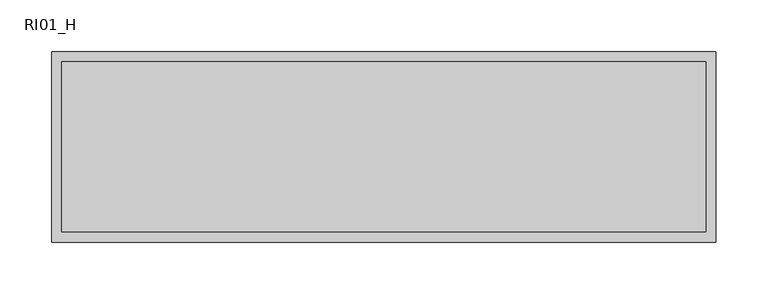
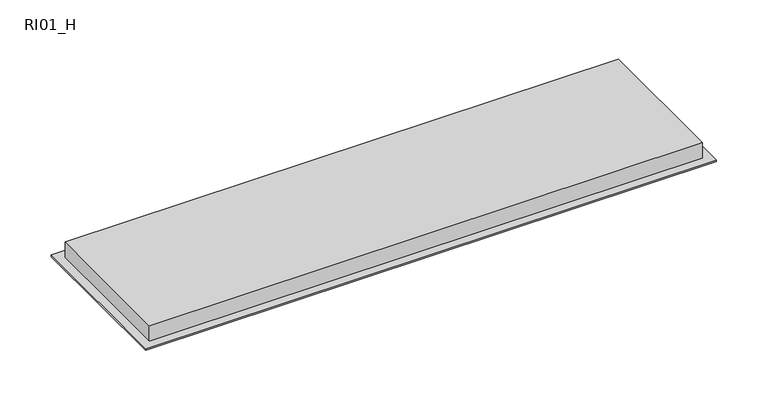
"""IFC4 building model written with IfcOpenShell, lengths in millimetres: air terminal geometry, ZYR_03.06.04.01 Reixa Sostre Sobrepressio : RI01_H."""

import ifcopenshell
import ifcopenshell.guid

model = None  # the IFC model being written
_history = None  # IfcOwnerHistory: only IFC2X3 demands one
_inside = {}  # id of a spatial element -> (the spatial element, [elements in it])
_under = {}  # id of a project, library or spatial element -> (it, [spatial elements below it])
_declared = {}  # id of a project -> (the project, [libraries it declares])
_typed = {}  # id of a type object -> (the type object, [elements of that type])
_made_of = {}  # id of a material, layer set ... -> (it, [elements and type objects made of it])


def new_model(schema):
    """Start an empty IFC model of exactly this schema.

    Asked for "IFC4X3", IfcOpenShell would pick the latest addendum, in which some entities
    have other attributes; the version numbers below select the first issue.
    IFC2X3 requires an IfcOwnerHistory on every rooted entity: one is made here for all.
    """
    global model, _history
    if schema == "IFC4X3":
        model = ifcopenshell.file(schema_version=(4, 3, 0, 0))
    else:
        model = ifcopenshell.file(schema=schema)
    _inside.clear()
    _under.clear()
    _declared.clear()
    _typed.clear()
    _made_of.clear()
    _history = None
    if model.schema == "IFC2X3":
        org = make("IfcOrganization", Name="unknown")
        user = make(
            "IfcPersonAndOrganization",
            ThePerson=make("IfcPerson", FamilyName="unknown"),
            TheOrganization=org,
        )
        app = make(
            "IfcApplication",
            ApplicationDeveloper=org,
            Version="unknown",
            ApplicationFullName="unknown",
            ApplicationIdentifier="unknown",
        )
        _history = make(
            "IfcOwnerHistory",
            OwningUser=user,
            OwningApplication=app,
            ChangeAction="ADDED",
            CreationDate=0,
        )
    return model


def make(cls, **values):
    """One entity of the class cls with the attributes given. An attribute that is None is left unset."""
    return model.create_entity(
        cls, **{name: value for name, value in values.items() if value is not None}
    )


def rooted(cls, **values):
    """An entity with a GlobalId (a new one), such as an element, a storey or a relation."""
    return make(cls, GlobalId=ifcopenshell.guid.new(), OwnerHistory=_history, **values)


def si_unit(unit_type, name, prefix=None):
    """IfcSIUnit, for example si_unit("LENGTHUNIT", "METRE", prefix="MILLI")."""
    return make("IfcSIUnit", UnitType=unit_type, Prefix=prefix, Name=name)


def assignment(units):
    """IfcUnitAssignment: the units of a project."""
    return None if units is None else make("IfcUnitAssignment", Units=units)


def point(xyz):
    """IfcCartesianPoint."""
    return None if xyz is None else make("IfcCartesianPoint", Coordinates=xyz)


def direction(xyz):
    """IfcDirection."""
    return None if xyz is None else make("IfcDirection", DirectionRatios=xyz)


def frame(location, z_axis=None, x_axis=None):
    """IfcAxis2Placement3D, a coordinate frame: its origin and axes. An axis left out is left unset."""
    return make(
        "IfcAxis2Placement3D",
        Location=point(location),
        Axis=direction(z_axis),
        RefDirection=direction(x_axis),
    )


def origin():
    """The frame at (0, 0, 0) with its axes left unset."""
    return frame((0.0, 0.0, 0.0))


def origin_with_axes():
    """The frame at (0, 0, 0) with the z axis (0, 0, 1) and the x axis (1, 0, 0) written out."""
    return frame((0.0, 0.0, 0.0), z_axis=(0.0, 0.0, 1.0), x_axis=(1.0, 0.0, 0.0))


def place(relative_to, where):
    """IfcLocalPlacement: puts the frame where relative to a parent placement (None: the world)."""
    return make(
        "IfcLocalPlacement", PlacementRelTo=relative_to, RelativePlacement=where
    )


def context(
    kind, dimensions, precision=None, world=None, true_north=None, identifier=None
):
    """IfcGeometricRepresentationContext, for example the 3D "Model" context."""
    return make(
        "IfcGeometricRepresentationContext",
        ContextIdentifier=identifier,
        ContextType=kind,
        CoordinateSpaceDimension=dimensions,
        Precision=precision,
        WorldCoordinateSystem=world,
        TrueNorth=true_north,
    )


def project(units=None, contexts=None):
    """IfcProject with its units and contexts."""
    return rooted(
        "IfcProject",
        Name="project",
        RepresentationContexts=contexts,
        UnitsInContext=assignment(units),
    )


def spatial(cls, under=None, at=None, **own):
    """A site, building, storey or space (cls), placed at a placement, below another one or the project."""
    s = rooted(cls, ObjectPlacement=at, **own)
    if under is not None:
        _under.setdefault(under.id(), (under, []))[1].append(s)
    return s


def polyline(points):
    """IfcPolyline through the points."""
    return make("IfcPolyline", Points=[point(p) for p in points])


def outline(outer, holes=None, kind="AREA"):
    """IfcArbitraryClosedProfileDef: a profile drawn as a closed curve; with holes, ...WithVoids."""
    if holes is None:
        return make("IfcArbitraryClosedProfileDef", ProfileType=kind, OuterCurve=outer)
    return make(
        "IfcArbitraryProfileDefWithVoids",
        ProfileType=kind,
        OuterCurve=outer,
        InnerCurves=holes,
    )


def extrude(swept, where, along, depth):
    """IfcExtrudedAreaSolid: the profile swept, set in the frame where, extruded along a direction by depth."""
    return make(
        "IfcExtrudedAreaSolid",
        SweptArea=swept,
        Position=where,
        ExtrudedDirection=direction(along),
        Depth=depth,
    )


def shape(context_of_items, identifier, shape_type, items):
    """IfcShapeRepresentation: the items that make up one representation, for example the "Body"."""
    return make(
        "IfcShapeRepresentation",
        ContextOfItems=context_of_items,
        RepresentationIdentifier=identifier,
        RepresentationType=shape_type,
        Items=items,
    )


def source(mapping_origin, context_of_items, identifier, shape_type, items):
    """IfcRepresentationMap: a shape defined once, which mapped items show again and again."""
    return make(
        "IfcRepresentationMap",
        MappingOrigin=mapping_origin,
        MappedRepresentation=shape(context_of_items, identifier, shape_type, items),
    )


def transform(
    local_origin,
    x_axis=None,
    y_axis=None,
    z_axis=None,
    scale=None,
    scale2=None,
    scale3=None,
    uniform=True,
):
    """IfcCartesianTransformationOperator3D, or its non-uniform kind. x_axis, y_axis, z_axis: its Axis1, 2, 3."""
    if uniform:
        return make(
            "IfcCartesianTransformationOperator3D",
            Axis1=direction(x_axis),
            Axis2=direction(y_axis),
            LocalOrigin=point(local_origin),
            Scale=scale,
            Axis3=direction(z_axis),
        )
    return make(
        "IfcCartesianTransformationOperator3DnonUniform",
        Axis1=direction(x_axis),
        Axis2=direction(y_axis),
        LocalOrigin=point(local_origin),
        Scale=scale,
        Axis3=direction(z_axis),
        Scale2=scale2,
        Scale3=scale3,
    )


def mapped(mapping_source, mapping_target):
    """IfcMappedItem: shows the shape of a source again, moved by a transform."""
    return make(
        "IfcMappedItem", MappingSource=mapping_source, MappingTarget=mapping_target
    )


def made_of(thing, what):
    """Note that an element or type object is made of a material, layer set ...; save() writes the relation."""
    if what is not None:
        _made_of.setdefault(what.id(), (what, []))[1].append(thing)
    return thing


def element(
    cls,
    number,
    at=None,
    inside=None,
    cuts=None,
    type_object=None,
    material=None,
    context=None,
    identifier="Body",
    shape_type=None,
    held_by="IfcProductDefinitionShape",
    body=None,
    shapes=None,
    **own,
):
    """One element of the class cls, such as IfcWall. Its Tag is "e" and its number.

    at: its placement. inside: the storey or other place that contains it. cuts: it is an
    opening in that element (IfcRelVoidsElement). A single representation is given by context,
    identifier, shape_type and body (its items); several are given by shapes. held_by: the class
    of the entity that holds the representations. save() writes the other relations.
    """
    e = rooted(cls, Tag="e%d" % number, ObjectPlacement=at, **own)
    if body is not None:
        shapes = [shape(context, identifier, shape_type, body)]
    if shapes is not None:
        e.Representation = make(held_by, Representations=shapes)
    if inside is not None:
        _inside.setdefault(inside.id(), (inside, []))[1].append(e)
    if cuts is not None:
        rooted(
            "IfcRelVoidsElement", RelatingBuildingElement=cuts, RelatedOpeningElement=e
        )
    if type_object is not None:
        _typed.setdefault(type_object.id(), (type_object, []))[1].append(e)
    return made_of(e, material)


def aggregate(whole, parts):
    """IfcRelAggregates: a whole, such as a stair, and the parts it consists of."""
    return rooted("IfcRelAggregates", RelatingObject=whole, RelatedObjects=parts)


def save(model, path):
    """Write the relations noted so far, then the file.

    IfcRelAggregates (storeys below a building ...), IfcRelContainedInSpatialStructure (elements
    in a storey), IfcRelDefinesByType, IfcRelAssociatesMaterial and IfcRelDeclares: one each for
    every whole, place, type object, material and project.
    """
    for whole, parts in _under.values():
        aggregate(whole, parts)
    for where, things in _inside.values():
        rooted(
            "IfcRelContainedInSpatialStructure",
            RelatedElements=things,
            RelatingStructure=where,
        )
    for kind, things in _typed.values():
        rooted("IfcRelDefinesByType", RelatedObjects=things, RelatingType=kind)
    for what, things in _made_of.values():
        rooted("IfcRelAssociatesMaterial", RelatedObjects=things, RelatingMaterial=what)
    for by, libraries in _declared.values():
        rooted("IfcRelDeclares", RelatingContext=by, RelatedDefinitions=libraries)
    model.write(path)


def ri01_h_dfb53824(model_context):
    return source(origin(), model_context, "Body", "SweptSolid", [
        extrude(outline(polyline([(312.5, 82.5), (312.5, -82.5), (-312.5, -82.5), (-312.5, 82.5), (312.5, 82.5)])), origin_with_axes(), (0.0, 0.0, 1.0), 20.0),
        extrude(outline(polyline([(322.5, 92.5), (322.5, -92.5), (-322.5, -92.5), (-322.5, 92.5), (322.5, 92.5)]), holes=[polyline([(312.5, 82.5), (-312.5, 82.5), (-312.5, -82.5), (312.5, -82.5), (312.5, 82.5)])]), origin_with_axes(), (0.0, 0.0, 1.0), 2.0),
    ])


if __name__ == "__main__":
    model = new_model("IFC4")
    model_context = context("Model", 3, world=origin())
    ifc_project = project(units=[si_unit("LENGTHUNIT", "METRE", prefix="MILLI")], contexts=[model_context])
    site = spatial("IfcSite", under=ifc_project)
    building = spatial("IfcBuilding", under=site)
    placement = place(None, origin())
    ri01_h_shape = ri01_h_dfb53824(model_context)
    element("IfcAirTerminal", 1, ObjectType="ZYR_03.06.04.01 Reixa Sostre Sobrepressio : RI01_H", at=placement, inside=building, context=model_context, shape_type="MappedRepresentation", body=[
        mapped(ri01_h_shape, transform((0.0, 0.0, 0.0), x_axis=(1.0, 0.0, 0.0), y_axis=(0.0, 1.0, 0.0), z_axis=(0.0, 0.0, 1.0))),
    ])
    save(model, "model.ifc")
